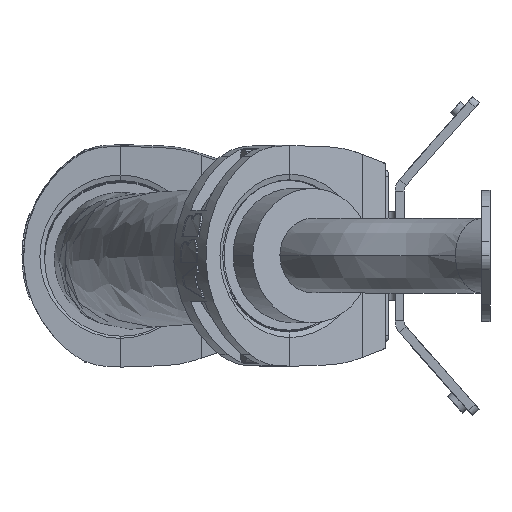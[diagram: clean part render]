
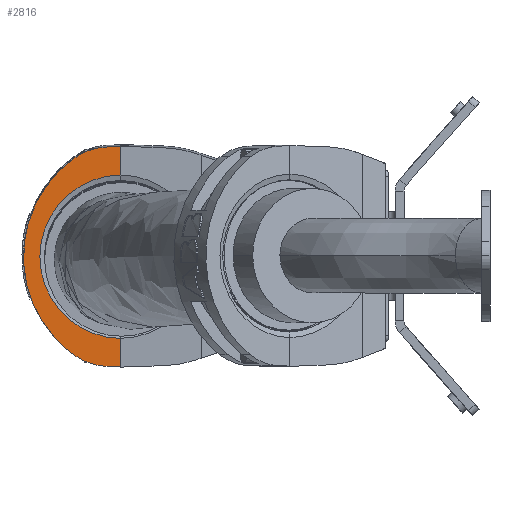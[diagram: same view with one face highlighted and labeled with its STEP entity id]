
A CAD part, left-side view. The second image highlights one B-rep face of the part: STEP entity #2816.
In plain terms, the highlighted planar face has unit normal (-0.999, -0.035, -0.028).
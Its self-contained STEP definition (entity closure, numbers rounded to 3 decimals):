
#364 = CARTESIAN_POINT ( 'NONE',  ( 1470.89, 336.5, 2579.162 ) ) ;
#573 = ORIENTED_EDGE ( 'NONE', *, *, #16311, .T. ) ;
#926 = CARTESIAN_POINT ( 'NONE',  ( 1470.049, 345.483, 2597.895 ) ) ;
#1035 = PLANE ( 'NONE',  #7173 ) ;
#1241 = AXIS2_PLACEMENT_3D ( 'NONE', #3637, #18523, #12164 ) ;
#1270 = EDGE_CURVE ( 'NONE', #17097, #15333, #10275, .T. ) ;
#2621 = CARTESIAN_POINT ( 'NONE',  ( 1474.181, 345.483, 2450.93 ) ) ;
#2674 = EDGE_CURVE ( 'NONE', #17097, #11919, #5409, .T. ) ;
#2689 = ORIENTED_EDGE ( 'NONE', *, *, #14997, .F. ) ;
#2816 = ADVANCED_FACE ( 'NONE', ( #18974 ), #1035, .F. ) ;
#3482 = EDGE_CURVE ( 'NONE', #18671, #19152, #15471, .T. ) ;
#3523 = VERTEX_POINT ( 'NONE', #5936 ) ;
#3637 = CARTESIAN_POINT ( 'NONE',  ( 1472.454, 335.782, 2524.422 ) ) ;
#3908 = CARTESIAN_POINT ( 'NONE',  ( 1473.223, 367.098, 2458.163 ) ) ;
#4184 = ORIENTED_EDGE ( 'NONE', *, *, #9649, .T. ) ;
#4353 = VERTEX_POINT ( 'NONE', #2621 ) ;
#4818 = DIRECTION ( 'NONE',  ( 0.028, 0., -1. ) ) ;
#5256 = CARTESIAN_POINT ( 'NONE',  ( 1473.968, 336.5, 2469.682 ) ) ;
#5409 = LINE ( 'NONE', #20639, #21080 ) ;
#5493 = CARTESIAN_POINT ( 'NONE',  ( 1470.354, 336.5, 2598.218 ) ) ;
#5551 = DIRECTION ( 'NONE',  ( -0.034, 0.999, -0.036 ) ) ;
#5565 = CARTESIAN_POINT ( 'NONE',  ( 1473.223, 367.098, 2458.163 ) ) ;
#5641 = CARTESIAN_POINT ( 'NONE',  ( 1469.498, 367.098, 2590.62 ) ) ;
#5806 = ORIENTED_EDGE ( 'NONE', *, *, #2674, .F. ) ;
#5920 = CARTESIAN_POINT ( 'NONE',  ( 1469.498, 367.098, 2590.62 ) ) ;
#5923 = CARTESIAN_POINT ( 'NONE',  ( 1473.32, 391.5, 2424.407 ) ) ;
#5936 = CARTESIAN_POINT ( 'NONE',  ( 1469.498, 367.098, 2590.62 ) ) ;
#6343 = CARTESIAN_POINT ( 'NONE',  ( 1470.049, 345.483, 2597.895 ) ) ;
#6443 = CARTESIAN_POINT ( 'NONE',  ( 1474.504, 336.5, 2450.625 ) ) ;
#7173 = AXIS2_PLACEMENT_3D ( 'NONE', #5923, #7785, #19187 ) ;
#7217 = CARTESIAN_POINT ( 'NONE',  ( 1469.784, 353.294, 2597.615 ) ) ;
#7395 = VECTOR ( 'NONE', #4818, 1000. ) ;
#7785 = DIRECTION ( 'NONE',  ( 0.999, 0.035, 0.028 ) ) ;
#8178 = CARTESIAN_POINT ( 'NONE',  ( 1474.501, 336.567, 2450.628 ) ) ;
#8311 = ORIENTED_EDGE ( 'NONE', *, *, #1270, .T. ) ;
#8571 = EDGE_CURVE ( 'NONE', #18671, #15333, #21366, .T. ) ;
#8589 = VERTEX_POINT ( 'NONE', #5565 ) ;
#9378 = CARTESIAN_POINT ( 'NONE',  ( 1473.901, 353.294, 2451.195 ) ) ;
#9649 = EDGE_CURVE ( 'NONE', #8589, #4353, #14633, .T. ) ;
#10275 = CIRCLE ( 'NONE', #1241, 54.766 ) ;
#10414 = VECTOR ( 'NONE', #5551, 1000. ) ;
#10592 = CARTESIAN_POINT ( 'NONE',  ( 1473.573, 360.704, 2453.675 ) ) ;
#10808 = CARTESIAN_POINT ( 'NONE',  ( 1473.223, 367.098, 2458.163 ) ) ;
#11919 = VERTEX_POINT ( 'NONE', #16971 ) ;
#12032 = EDGE_CURVE ( 'NONE', #3523, #8589, #16703, .T. ) ;
#12164 = DIRECTION ( 'NONE',  ( -0.035, 0.999, -0.001 ) ) ;
#12436 = CARTESIAN_POINT ( 'NONE',  ( 1468.735, 417.497, 2555.138 ) ) ;
#14633 =( BOUNDED_CURVE ( )  B_SPLINE_CURVE ( 3, ( #3908, #10592, #9378, #15976 ),
 .UNSPECIFIED., .F., .F. ) 
 B_SPLINE_CURVE_WITH_KNOTS ( ( 4, 4 ),
 ( 4.099, 4.677 ),
 .UNSPECIFIED. ) 
 CURVE ( )  GEOMETRIC_REPRESENTATION_ITEM ( )  RATIONAL_B_SPLINE_CURVE ( ( 1., 0.972, 0.972, 1. ) ) 
 REPRESENTATION_ITEM ( '' )  );
#14997 = EDGE_CURVE ( 'NONE', #11919, #4353, #17943, .T. ) ;
#15224 = DIRECTION ( 'NONE',  ( 0.028, 0., -1. ) ) ;
#15333 = VERTEX_POINT ( 'NONE', #364 ) ;
#15471 = LINE ( 'NONE', #16987, #10414 ) ;
#15863 = CARTESIAN_POINT ( 'NONE',  ( 1470.467, 417.497, 2493.546 ) ) ;
#15976 = CARTESIAN_POINT ( 'NONE',  ( 1474.181, 345.483, 2450.93 ) ) ;
#16190 = ORIENTED_EDGE ( 'NONE', *, *, #12032, .T. ) ;
#16311 = EDGE_CURVE ( 'NONE', #19152, #3523, #19871, .T. ) ;
#16595 = ORIENTED_EDGE ( 'NONE', *, *, #8571, .F. ) ;
#16703 =( BOUNDED_CURVE ( )  B_SPLINE_CURVE ( 3, ( #5641, #12436, #15863, #10808 ),
 .UNSPECIFIED., .F., .F. ) 
 B_SPLINE_CURVE_WITH_KNOTS ( ( 4, 4 ),
 ( 2.184, 4.099 ),
 .UNSPECIFIED. ) 
 CURVE ( )  GEOMETRIC_REPRESENTATION_ITEM ( )  RATIONAL_B_SPLINE_CURVE ( ( 1., 0.717, 0.717, 1. ) ) 
 REPRESENTATION_ITEM ( '' )  );
#16971 = CARTESIAN_POINT ( 'NONE',  ( 1474.504, 336.5, 2450.625 ) ) ;
#16987 = CARTESIAN_POINT ( 'NONE',  ( 1468.285, 397.488, 2596.029 ) ) ;
#17097 = VERTEX_POINT ( 'NONE', #5256 ) ;
#17225 = ORIENTED_EDGE ( 'NONE', *, *, #3482, .T. ) ;
#17275 = EDGE_LOOP ( 'NONE', ( #4184, #2689, #5806, #8311, #16595, #17225, #573, #16190 ) ) ;
#17943 = LINE ( 'NONE', #8178, #21257 ) ;
#18523 = DIRECTION ( 'NONE',  ( 0.999, 0.035, 0.028 ) ) ;
#18671 = VERTEX_POINT ( 'NONE', #5493 ) ;
#18974 = FACE_OUTER_BOUND ( 'NONE', #17275, .T. ) ;
#19152 = VERTEX_POINT ( 'NONE', #6343 ) ;
#19187 = DIRECTION ( 'NONE',  ( 0., 0.627, -0.779 ) ) ;
#19871 =( BOUNDED_CURVE ( )  B_SPLINE_CURVE ( 3, ( #926, #7217, #20523, #5920 ),
 .UNSPECIFIED., .F., .T. ) 
 B_SPLINE_CURVE_WITH_KNOTS ( ( 4, 4 ),
 ( 1.606, 2.184 ),
 .UNSPECIFIED. ) 
 CURVE ( )  GEOMETRIC_REPRESENTATION_ITEM ( )  RATIONAL_B_SPLINE_CURVE ( ( 1., 0.972, 0.972, 1. ) ) 
 REPRESENTATION_ITEM ( '' )  );
#20523 = CARTESIAN_POINT ( 'NONE',  ( 1469.595, 360.704, 2595.121 ) ) ;
#20639 = CARTESIAN_POINT ( 'NONE',  ( 1474.504, 336.5, 2450.625 ) ) ;
#21080 = VECTOR ( 'NONE', #15224, 1000. ) ;
#21257 = VECTOR ( 'NONE', #21433, 1000. ) ;
#21366 = LINE ( 'NONE', #6443, #7395 ) ;
#21433 = DIRECTION ( 'NONE',  ( -0.036, 0.999, 0.034 ) ) ;
